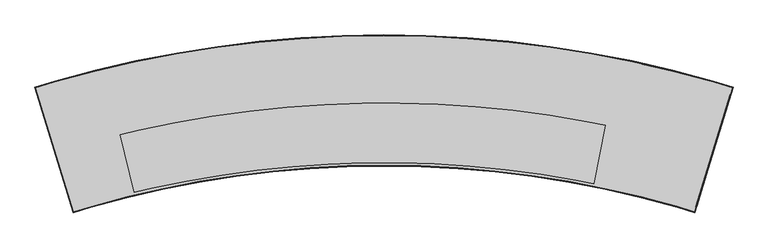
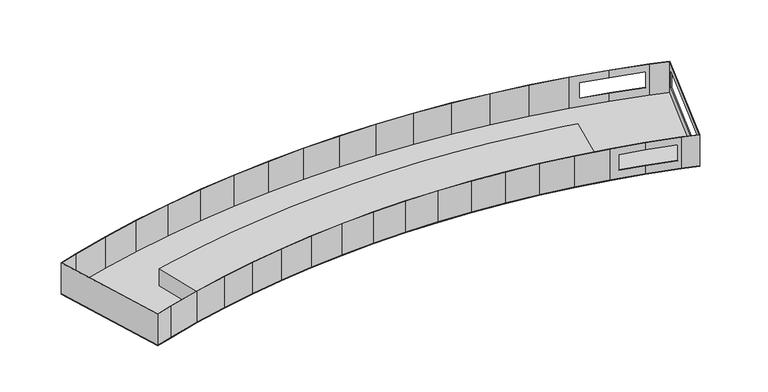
"""IFC4 building model written with IfcOpenShell, lengths in millimetres: proxy geometry, Techno_Конвектор встраиваемый_Usual_KVZ_R-250_85 : KVZ R 250-85_П."""

from ifc_helpers import new_model, si_unit, frame, origin, place, context, project, spatial, polyline, outline, extrude, faceted_brep, source, transform, mapped, element, save


def mechanical_equipment_9d25de07(model_context):
    return source(origin(), model_context, "Body", "SolidModel", [
        extrude(outline(polyline([(872.1824211, -41.3360009), (852.5276672, -139.3854306), (823.1545874, -133.4973733), (764.0479265, -123.6896834), (704.6467019, -115.8613594), (645.0171797, -110.0211342), (585.2258809, -106.175523), (525.3395067, -104.328816), (465.4248645, -104.4830731), (405.5487933, -106.6381224), (345.7780889, -110.7915597), (286.1794298, -116.9387515), (226.8193022, -125.0728404), (167.7639267, -135.184752), (109.0791834, -147.2632059), (79.9548614, -154.2789668), (56.5357524, -57.0599083), (87.2838658, -49.6529921), (149.240506, -36.9011186), (211.5884427, -26.2254296), (274.2581223, -17.6378345), (337.1796327, -11.1479134), (400.2827805, -6.7629062), (463.4971696, -4.4877048), (526.7522803, -4.3248472), (589.9775469, -6.2745152), (653.1024373, -10.3345337), (716.0565314, -16.5003736), (778.7695995, -24.7651564), (841.1716808, -35.1196622), (872.1824211, -41.3360009)])), frame((0.0, 0.0, -69.8), z_axis=(0.0, 0.0, 1.0), x_axis=(1.0, 0.0, 0.0)), (0.0, 0.0, 1.0), 35.0),
        extrude(outline(polyline([(1086.9166428, 22.5197459), (1022.5025267, -188.257344), (992.670603, -179.1406179), (932.4069846, -162.9996836), (871.6169593, -148.9709168), (810.3745323, -137.0713961), (748.7542592, -127.3156078), (686.8311557, -119.7154284), (624.6806064, -114.2801103), (562.3782725, -111.0162705), (500.0, -109.9278822), (437.6217275, -111.0162705), (375.3193936, -114.2801103), (313.1688443, -119.7154284), (251.2457408, -127.3156078), (189.6254677, -137.0713961), (128.3830407, -148.9709168), (67.5930154, -162.9996836), (7.329397, -179.1406179), (-22.5025267, -188.257344), (-86.9166428, 22.5197459), (-53.4070393, 32.7603821), (14.2858785, 50.891171), (82.5700986, 66.6494042), (151.3624926, 80.015898), (220.5793135, 90.97438), (290.1362977, 99.5115095), (359.9487673, 105.6168936), (429.9317335, 109.2830997), (500.0, 110.5056645), (570.0682665, 109.2830997), (640.0512327, 105.6168936), (709.8637023, 99.5115095), (779.4206865, 90.97438), (848.6375074, 80.015898), (917.4299014, 66.6494042), (985.7141215, 50.891171), (1053.4070393, 32.7603821), (1086.9166428, 22.5197459)])), frame((0.0, 0.0, -85.0), z_axis=(0.0, 0.0, 1.0), x_axis=(1.0, 0.0, 0.0)), (0.0, 0.0, 1.0), 1.2),
        faceted_brep([(-86.9166428, 22.5197459, -20.5), (-86.9166428, 22.5197459, -85.0), (-22.5025267, -188.257344, -85.0), (-22.5025267, -188.257344, -20.5), (1022.5025267, -188.257344, -20.5), (1022.5025267, -188.257344, -85.0), (1086.9166428, 22.5197459, -85.0), (1086.9166428, 22.5197459, -20.5), (1025.4835792, -178.5026874, -33.0), (1083.2341661, 10.469876, -33.0), (1083.2341661, 10.469876, -65.0), (1025.4835792, -178.5026874, -65.0), (-85.4183241, 21.7228513, -85.0), (-85.4183241, 21.7228513, -20.5), (-21.7056321, -186.7590253, -20.5), (-21.7056321, -186.7590253, -85.0), (1021.7056321, -186.7590253, -85.0), (1021.7056321, -186.7590253, -20.5), (1085.4183241, 21.7228513, -20.5), (1085.4183241, 21.7228513, -85.0), (1082.0865595, 10.820588, -33.0), (1024.3359726, -178.1519754, -33.0), (1024.3359726, -178.1519754, -65.0), (1082.0865595, 10.820588, -65.0), (7.329397, -179.1406179, -85.0), (7.329397, -179.1406179, -20.5), (6.978685, -177.9930113, -20.5), (6.978685, -177.9930113, -85.0), (67.5930154, -162.9996836, -85.0), (67.5930154, -162.9996836, -20.5), (67.282552, -161.8405406, -20.5), (67.282552, -161.8405406, -85.0), (128.3830407, -148.9709168, -85.0), (128.3830407, -148.9709168, -20.5), (128.1132038, -147.8016486, -20.5), (128.1132038, -147.8016486, -85.0), (189.6254677, -137.0713961, -85.0), (189.6254677, -137.0713961, -20.5), (189.3965859, -135.8934262, -20.5), (189.3965859, -135.8934262, -85.0), (251.2457408, -127.3156078, -85.0), (251.2457408, -127.3156078, -20.5), (251.0580927, -126.1303702, -20.5), (251.0580927, -126.1303702, -85.0), (313.1688443, -119.7154284, -85.0), (313.1688443, -119.7154284, -20.5), (313.0226583, -118.524366, -20.5), (313.0226583, -118.524366, -85.0), (375.3193936, -114.2801103, -85.0), (375.3193936, -114.2801103, -20.5), (375.2148478, -113.0846731, -20.5), (375.2148478, -113.0846731, -85.0), (437.6217275, -111.0162705, -85.0), (437.6217275, -111.0162705, -20.5), (437.5589491, -109.8179138, -20.5), (437.5589491, -109.8179138, -85.0), (500.0, -109.9278822, -85.0), (500.0, -109.9278822, -20.5), (499.9790654, -108.7280648, -20.5), (499.9790654, -108.7280648, -85.0), (562.3782725, -111.0162705, -85.0), (562.3782725, -111.0162705, -20.5), (562.3992071, -109.8164531, -20.5), (562.3992071, -109.8164531, -85.0), (1053.4070393, 32.7603821, -85.0), (1053.4070393, 32.7603821, -20.5), (1053.0563272, 31.6127754, -20.5), (1053.0563272, 31.6127754, -85.0), (985.7141215, 50.891171, -85.0), (985.7141215, 50.891171, -67.0), (1046.7669959, 34.5388432, -67.0), (1046.7669959, 34.5388432, -35.0), (985.7141215, 50.891171, -35.0), (985.7141215, 50.891171, -20.5), (985.4036581, 49.732028, -20.5), (985.4036581, 49.732028, -35.0), (1046.4402753, 33.3840546, -35.0), (1046.4402753, 33.3840546, -67.0), (985.4036581, 49.732028, -67.0), (985.4036581, 49.732028, -85.0), (917.4299014, 66.6494042, -85.0), (917.4299014, 66.6494042, -20.5), (934.7189197, 62.6595456, -35.0), (934.7189197, 62.6595456, -67.0), (917.1600645, 65.4801361, -20.5), (917.1600645, 65.4801361, -85.0), (934.4591533, 61.4879534, -67.0), (934.4591533, 61.4879534, -35.0), (848.6375074, 80.015898, -85.0), (848.6375074, 80.015898, -20.5), (848.4086256, 78.837928, -20.5), (848.4086256, 78.837928, -85.0), (779.4206865, 90.97438, -85.0), (779.4206865, 90.97438, -20.5), (779.2330384, 89.7891423, -20.5), (779.2330384, 89.7891423, -85.0), (709.8637023, 99.5115095, -85.0), (709.8637023, 99.5115095, -20.5), (709.7175163, 98.3204471, -20.5), (709.7175163, 98.3204471, -85.0), (640.0512327, 105.6168936, -85.0), (640.0512327, 105.6168936, -20.5), (639.9466868, 104.4214564, -20.5), (639.9466868, 104.4214564, -85.0), (570.0682665, 109.2830997, -85.0), (570.0682665, 109.2830997, -20.5), (570.005488, 108.0847429, -20.5), (570.005488, 108.0847429, -85.0), (500.0, 110.5056645, -85.0), (500.0, 110.5056645, -20.5), (499.9790654, 109.3058471, -20.5), (499.9790654, 109.3058471, -85.0), (429.9317335, 109.2830997, -85.0), (429.9317335, 109.2830997, -20.5), (429.9526682, 108.0832823, -20.5), (429.9526682, 108.0832823, -85.0), (986.7593045, -177.5573429, -35.0), (987.0860251, -176.4025542, -35.0), (987.0860251, -176.4025542, -67.0), (986.7593045, -177.5573429, -67.0), (932.6769858, -161.8297032, -67.0), (887.2682737, -151.3512961, -67.0), (887.0085074, -152.5228883, -67.0), (932.4069846, -162.9996836, -67.0), (932.4069846, -162.9996836, -35.0), (887.0085074, -152.5228883, -35.0), (887.2682737, -151.3512961, -35.0), (932.6768214, -161.8304154, -35.0), (624.6806064, -114.2801103, -85.0), (624.6806064, -114.2801103, -20.5), (624.7433849, -113.0817536, -20.5), (624.7433849, -113.0817536, -85.0), (686.8311557, -119.7154284, -85.0), (686.8311557, -119.7154284, -20.5), (686.9357016, -118.5199912, -20.5), (686.9357016, -118.5199912, -85.0), (748.7542592, -127.3156078, -85.0), (748.7542592, -127.3156078, -20.5), (748.9004451, -126.1245454, -20.5), (748.9004451, -126.1245454, -85.0), (810.3745323, -137.0713961, -85.0), (810.3745323, -137.0713961, -20.5), (810.5621804, -135.8861585, -20.5), (810.5621804, -135.8861585, -85.0), (871.6169593, -148.9709168, -85.0), (871.6169593, -148.9709168, -20.5), (871.8458411, -147.7929469, -20.5), (871.8458411, -147.7929469, -85.0), (932.4069846, -162.9996836, -85.0), (932.4069846, -162.9996836, -20.5), (932.6768214, -161.8304154, -20.5), (932.6768214, -161.8304154, -85.0), (992.670603, -179.1406179, -85.0), (992.670603, -179.1406179, -20.5), (992.9810664, -177.9814749, -20.5), (992.9810664, -177.9814749, -85.0), (359.9487673, 105.6168936, -85.0), (359.9487673, 105.6168936, -20.5), (360.0115458, 104.4185369, -20.5), (360.0115458, 104.4185369, -85.0), (290.1362977, 99.5115095, -85.0), (290.1362977, 99.5115095, -20.5), (290.2408436, 98.3160723, -20.5), (290.2408436, 98.3160723, -85.0), (220.5793135, 90.97438, -85.0), (220.5793135, 90.97438, -20.5), (220.7254995, 89.7833175, -20.5), (220.7254995, 89.7833175, -85.0), (151.3624926, 80.015898, -85.0), (151.3624926, 80.015898, -20.5), (151.5501407, 78.8306604, -20.5), (151.5501407, 78.8306604, -85.0), (82.5700986, 66.6494042, -85.0), (82.5700986, 66.6494042, -20.5), (82.7989804, 65.4714343, -20.5), (82.7989804, 65.4714343, -85.0), (14.2858785, 50.891171, -85.0), (14.2858785, 50.891171, -20.5), (14.5557154, 49.7219028, -20.5), (14.5557154, 49.7219028, -85.0), (-53.4070393, 32.7603821, -85.0), (-53.4070393, 32.7603821, -20.5), (-53.0965759, 31.6012391, -20.5), (-53.0965759, 31.6012391, -85.0)], [[[0, 1, 2, 3]], [[4, 5, 6, 7], [8, 9, 10, 11]], [[12, 13, 14, 15]], [[16, 17, 18, 19], [20, 21, 22, 23]], [[3, 2, 24, 25]], [[15, 14, 26, 27]], [[25, 24, 28, 29]], [[27, 26, 30, 31]], [[29, 28, 32, 33]], [[31, 30, 34, 35]], [[33, 32, 36, 37]], [[35, 34, 38, 39]], [[37, 36, 40, 41]], [[39, 38, 42, 43]], [[41, 40, 44, 45]], [[43, 42, 46, 47]], [[45, 44, 48, 49]], [[47, 46, 50, 51]], [[49, 48, 52, 53]], [[51, 50, 54, 55]], [[53, 52, 56, 57]], [[55, 54, 58, 59]], [[57, 56, 60, 61]], [[59, 58, 62, 63]], [[7, 6, 64, 65]], [[19, 18, 66, 67]], [[65, 64, 68, 69, 70, 71, 72, 73]], [[67, 66, 74, 75, 76, 77, 78, 79]], [[68, 80, 81, 73, 72, 82, 83, 69]], [[74, 84, 85, 79, 78, 86, 87, 75]], [[81, 80, 88, 89]], [[85, 84, 90, 91]], [[89, 88, 92, 93]], [[91, 90, 94, 95]], [[93, 92, 96, 97]], [[95, 94, 98, 99]], [[97, 96, 100, 101]], [[99, 98, 102, 103]], [[101, 100, 104, 105]], [[103, 102, 106, 107]], [[105, 104, 108, 109]], [[107, 106, 110, 111]], [[109, 108, 112, 113]], [[111, 110, 114, 115]], [[20, 9, 8, 21]], [[21, 8, 11, 22]], [[22, 11, 10, 23]], [[9, 20, 23, 10]], [[116, 117, 118, 119]], [[76, 71, 70, 77]], [[119, 118, 120, 121, 122, 123]], [[77, 70, 69, 83, 86, 78]], [[117, 116, 124, 125, 126, 127]], [[71, 76, 75, 87, 82, 72]], [[122, 121, 126, 125]], [[86, 83, 82, 87]], [[61, 60, 128, 129]], [[63, 62, 130, 131]], [[129, 128, 132, 133]], [[131, 130, 134, 135]], [[133, 132, 136, 137]], [[135, 134, 138, 139]], [[137, 136, 140, 141]], [[139, 138, 142, 143]], [[141, 140, 144, 145]], [[143, 142, 146, 147]], [[145, 144, 148, 123, 122, 125, 124, 149]], [[147, 146, 150, 127, 126, 121, 120, 151]], [[148, 152, 153, 149, 124, 116, 119, 123]], [[150, 154, 155, 151, 120, 118, 117, 127]], [[113, 112, 156, 157]], [[115, 114, 158, 159]], [[157, 156, 160, 161]], [[159, 158, 162, 163]], [[161, 160, 164, 165]], [[163, 162, 166, 167]], [[165, 164, 168, 169]], [[167, 166, 170, 171]], [[169, 168, 172, 173]], [[171, 170, 174, 175]], [[173, 172, 176, 177]], [[175, 174, 178, 179]], [[177, 176, 180, 181]], [[179, 178, 182, 183]], [[5, 4, 153, 152]], [[17, 16, 155, 154]], [[1, 0, 181, 180]], [[13, 12, 183, 182]], [[0, 3, 25, 29, 33, 37, 41, 45, 49, 53, 57, 61, 129, 133, 137, 141, 145, 149, 153, 4, 7, 65, 73, 81, 89, 93, 97, 101, 105, 109, 113, 157, 161, 165, 169, 173, 177, 181], [14, 13, 182, 178, 174, 170, 166, 162, 158, 114, 110, 106, 102, 98, 94, 90, 84, 74, 66, 18, 17, 154, 150, 146, 142, 138, 134, 130, 62, 58, 54, 50, 46, 42, 38, 34, 30, 26]], [[2, 1, 180, 176, 172, 168, 164, 160, 156, 112, 108, 104, 100, 96, 92, 88, 80, 68, 64, 6, 5, 152, 148, 144, 140, 136, 132, 128, 60, 56, 52, 48, 44, 40, 36, 32, 28, 24], [12, 15, 27, 31, 35, 39, 43, 47, 51, 55, 59, 63, 131, 135, 139, 143, 147, 151, 155, 16, 19, 67, 79, 85, 91, 95, 99, 103, 107, 111, 115, 159, 163, 167, 171, 175, 179, 183]]]),
    ])


if __name__ == "__main__":
    model = new_model("IFC4")
    model_context = context("Model", 3, world=origin())
    ifc_project = project(units=[si_unit("LENGTHUNIT", "METRE", prefix="MILLI")], contexts=[model_context])
    site = spatial("IfcSite", under=ifc_project)
    building = spatial("IfcBuilding", under=site)
    placement = place(None, origin())
    mechanical_equipment_shape = mechanical_equipment_9d25de07(model_context)
    element("IfcBuildingElementProxy", 1, Name="Techno_Конвектор встраиваемый_Usual_KVZ_R-250_85 : KVZ R 250-85_П", ObjectType="Techno_Конвектор встраиваемый_Usual_KVZ_R-250_85 : KVZ R 250-85_П", at=placement, inside=building, context=model_context, shape_type="MappedRepresentation", body=[
        mapped(mechanical_equipment_shape, transform((0.0, 0.0, 0.0), x_axis=(1.0, 0.0, 0.0), y_axis=(0.0, 1.0, 0.0), z_axis=(0.0, 0.0, 1.0))),
    ])
    save(model, "model.ifc")
